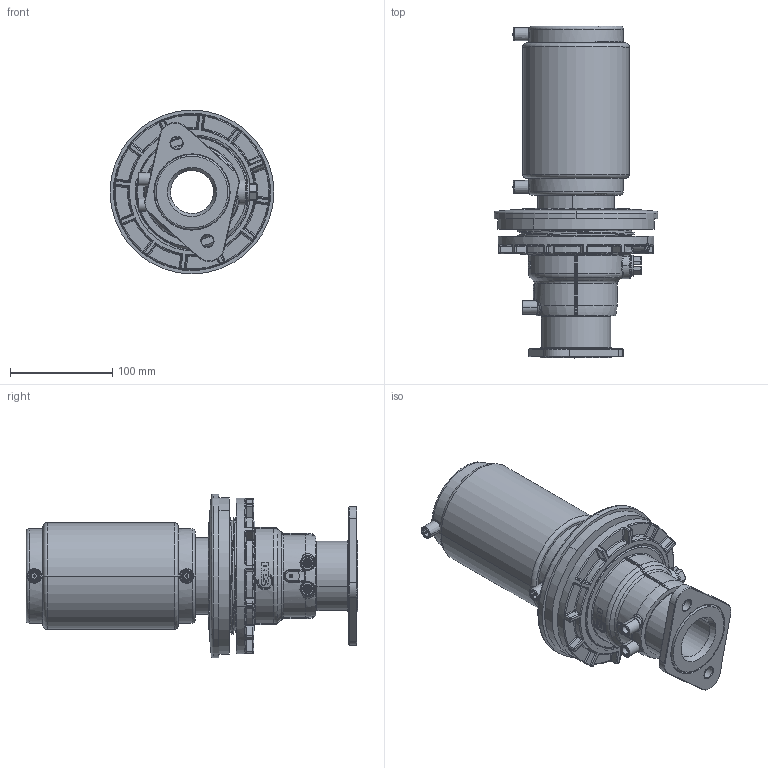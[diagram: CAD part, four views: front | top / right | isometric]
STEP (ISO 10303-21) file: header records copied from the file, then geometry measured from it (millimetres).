
FILE_DESCRIPTION (( 'STEP AP214' ), '1' );
FILE_NAME ('KP_TM75_63SCA20.STEP', '2014-01-20T10:59:50', ( 'robinj' ), ( 'Microsoft' ), 'SwSTEP 2.0', 'SolidWorks 2014', '' );
FILE_SCHEMA (( 'AUTOMOTIVE_DESIGN' ));
Length unit declared in the file: millimetre
Products named in the file (1): KP_TM75_63SCA20
Bounding box: 160 x 324 x 160 mm (x, y, z)
Volume: 1597508.9 mm3; surface area: 495255.8 mm2
Topology: 6 solids, 13 shells, 2419 faces, 6054 edges, 3615 vertices
Faces by surface type: plane 725, bspline 658, cylinder 528, torus 241, cone 163, sphere 104
Entity records: 103420 total; most frequent: CARTESIAN_POINT 50348, ORIENTED_EDGE 11792, DIRECTION 8788, EDGE_CURVE 5896, VERTEX_POINT 3612, AXIS2_PLACEMENT_3D 3491, EDGE_LOOP 2566, ADVANCED_FACE 2418
